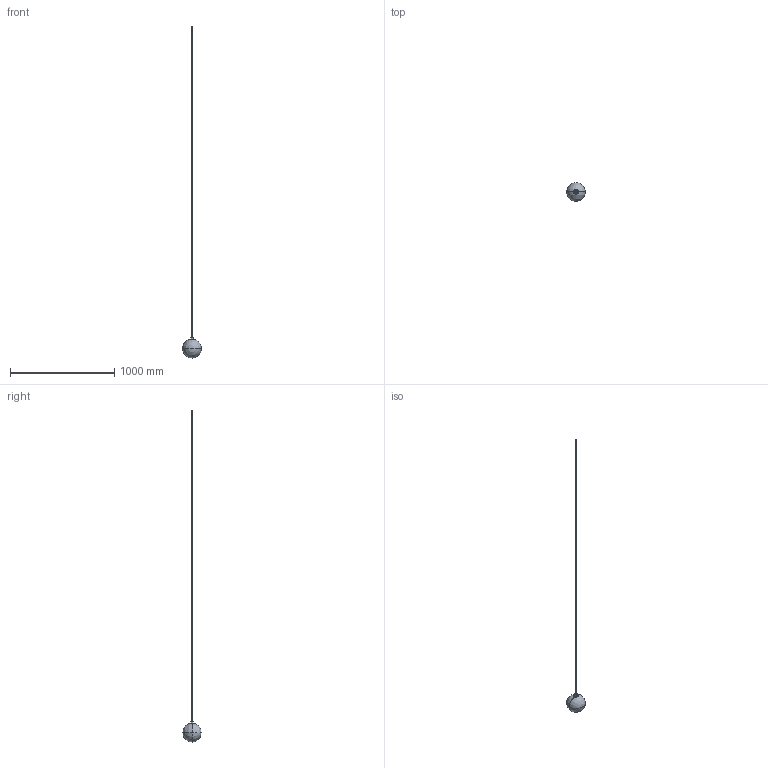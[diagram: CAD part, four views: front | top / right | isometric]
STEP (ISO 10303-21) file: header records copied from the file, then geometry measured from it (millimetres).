
FILE_DESCRIPTION(/* description */ (''),/* implementation_level */ '2;1');
FILE_NAME(/* name */ 'M115__~3',/* time_stamp */ '2024-07-03T09:45:13+02:00',/* author */ (''),/* organization */ (''),/* preprocessor_version */ 'ST-DEVELOPER v16.5',/* originating_system */ '',/* authorisation */ '');
FILE_SCHEMA (('AUTOMOTIVE_DESIGN'));
Length unit declared in the file: millimetre
Products named in the file (1): Document
Bounding box: 180 x 180 x 3178.46 mm (x, y, z)
Volume: 359118.1 mm3; surface area: 307431.6 mm2
Topology: 10 solids, 10 shells, 200 faces, 468 edges, 281 vertices
Faces by surface type: bspline 144, plane 56
Entity records: 10144 total; most frequent: CARTESIAN_POINT 7438, ORIENTED_EDGE 908, EDGE_CURVE 454, VERTEX_POINT 281, EDGE_LOOP 225, ADVANCED_FACE 200, FACE_OUTER_BOUND 200, B_SPLINE_CURVE_WITH_KNOTS 193
